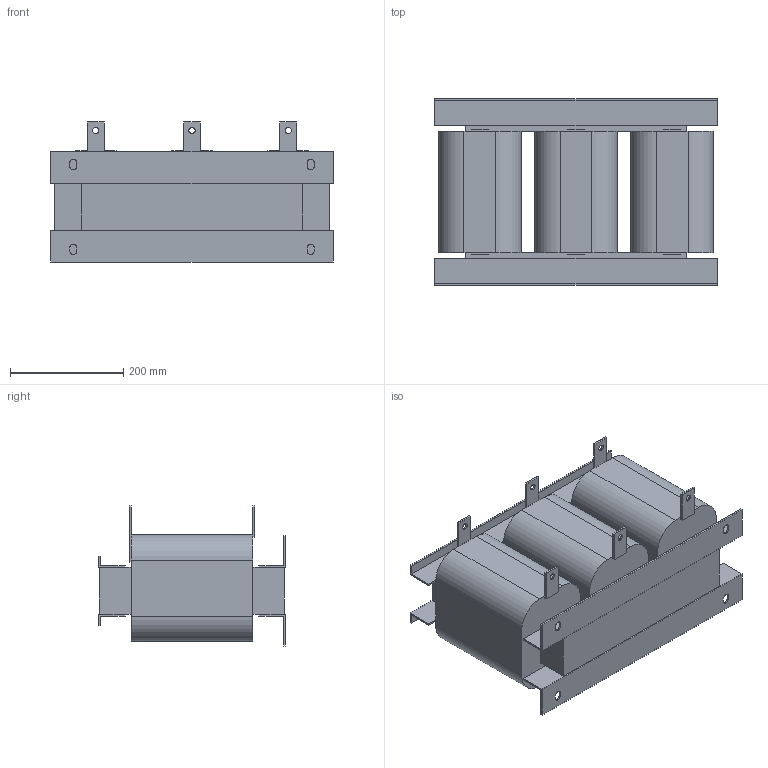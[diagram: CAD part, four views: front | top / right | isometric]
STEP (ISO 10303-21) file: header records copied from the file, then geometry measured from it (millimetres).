
FILE_DESCRIPTION(/* description */ (''),/* implementation_level */ '2;1');
FILE_NAME(/* name */ 'ACO-0218-T6-4.stp',/* time_stamp */ '2025-01-23T16:22:37+04:00',/* author */ ('Александр (огранич)'),/* organization */ (''),/* preprocessor_version */ 'ST-DEVELOPER v19.2',/* originating_system */ 'Autodesk Inventor 2024',/* authorisation */ '');
FILE_SCHEMA (('AUTOMOTIVE_DESIGN { 1 0 10303 214 3 1 1 }'));
Length unit declared in the file: millimetre
Products named in the file (1): ACO-0015-T4-4
Bounding box: 500 x 330 x 247.5 mm (x, y, z)
Volume: 20832149.3 mm3; surface area: 879909.7 mm2
Topology: 1 solids, 1 shells, 136 faces, 378 edges, 240 vertices
Faces by surface type: plane 110, cylinder 26
Full cylindrical faces by diameter (mm): 11 x6
Entity records: 4357 total; most frequent: ORIENTED_EDGE 756, CARTESIAN_POINT 755, DIRECTION 704, EDGE_CURVE 378, LINE 326, VECTOR 326, VERTEX_POINT 240, AXIS2_PLACEMENT_3D 189
